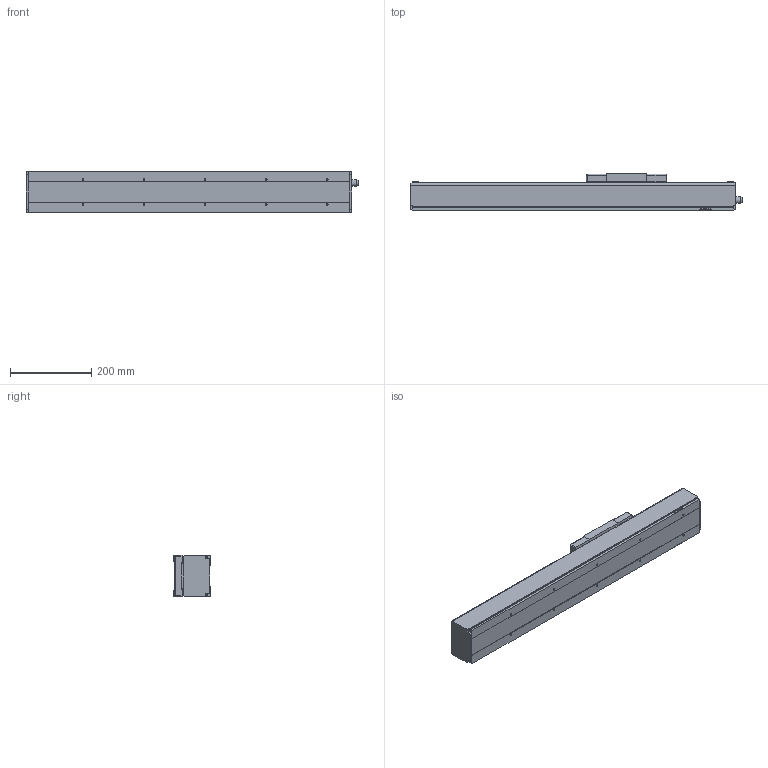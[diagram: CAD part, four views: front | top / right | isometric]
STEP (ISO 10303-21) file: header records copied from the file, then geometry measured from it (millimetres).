
FILE_DESCRIPTION(/* description */ (''),/* implementation_level */ '2;1');
FILE_NAME(/* name */ 'D:\混合母檔20191031\混和母檔\混和母檔\bin\Debug\Download\3D\KS100-20C-400AFI\KS100-20C-400AFI.stp',/* time_stamp */ '2019-11-04T14:51:36+08:00',/* author */ ('user'),/* organization */ (''),/* preprocessor_version */ 'ST-DEVELOPER v16.13',/* originating_system */ 'Autodesk Inventor 2018',/* authorisation */ '');
FILE_SCHEMA (('AUTOMOTIVE_DESIGN { 1 0 10303 214 3 1 1 }'));
Length unit declared in the file: millimetre
Products named in the file (3): KS100-20C-400AFI; KS100-FI; KS100-SL
Assembly tree (2 placements, depth 2):
  KS100-20C-400AFI
    KS100-FI
    KS100-SL
Bounding box: 815.5 x 89 x 102.4 mm (x, y, z)
Volume: 2011603.8 mm3; surface area: 636528 mm2
Topology: 3 solids, 7 shells, 646 faces, 1778 edges, 1170 vertices
Faces by surface type: plane 345, bspline 136, cylinder 74, cone 71, torus 16, sphere 4
Full cylindrical faces by diameter (mm): 2.459 x4, 3.242 x4, 3.571 x8, 4 x4, 4.134 x10, 4.3 x4, 6 x7, 8 x4, 8.4 x4, 14 x1, 15.538 x1, 28 x1, 30 x1
Entity records: 24490 total; most frequent: CARTESIAN_POINT 9318, ORIENTED_EDGE 3288, DIRECTION 2649, EDGE_CURVE 1644, VERTEX_POINT 1128, LINE 1057, VECTOR 1057, EDGE_LOOP 802
